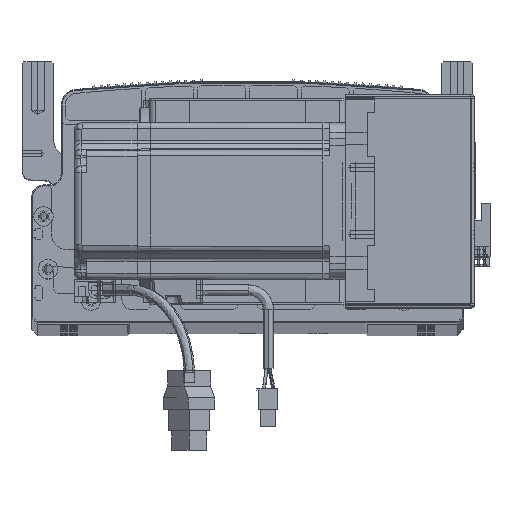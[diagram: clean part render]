
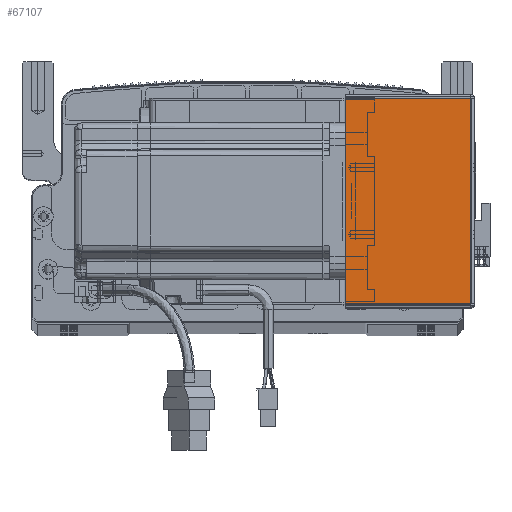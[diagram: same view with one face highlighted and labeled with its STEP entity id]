
A CAD part, top view. The second image highlights one B-rep face of the part: STEP entity #67107.
In plain terms, the highlighted planar face has unit normal (0, 0, 1) as drawn and (0, 0, -1) by its records, which use the part's own axes.
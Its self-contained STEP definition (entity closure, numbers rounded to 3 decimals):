
#2623 = CARTESIAN_POINT ( 'NONE',  ( 0.737, 105.293, -205.5 ) ) ;
#4442 = EDGE_CURVE ( 'NONE', #79353, #72066, #68485, .T. ) ;
#4563 = VECTOR ( 'NONE', #40053, 1000. ) ;
#5557 = EDGE_LOOP ( 'NONE', ( #59477, #54348, #36827, #17968 ) ) ;
#7065 = VECTOR ( 'NONE', #88303, 1000. ) ;
#8232 = VECTOR ( 'NONE', #10029, 1000. ) ;
#10029 = DIRECTION ( 'NONE',  ( 1., 0., 0. ) ) ;
#11229 = CARTESIAN_POINT ( 'NONE',  ( 0., 0.707, -205.5 ) ) ;
#15884 = VERTEX_POINT ( 'NONE', #82902 ) ;
#16853 = AXIS2_PLACEMENT_3D ( 'NONE', #23118, #62361, #77618 ) ;
#17968 = ORIENTED_EDGE ( 'NONE', *, *, #65363, .F. ) ;
#23118 = CARTESIAN_POINT ( 'NONE',  ( 0., 0., -205.5 ) ) ;
#24353 = EDGE_CURVE ( 'NONE', #82210, #15884, #89960, .T. ) ;
#25675 = CARTESIAN_POINT ( 'NONE',  ( 0.737, 0., -205.5 ) ) ;
#36827 = ORIENTED_EDGE ( 'NONE', *, *, #4442, .T. ) ;
#39539 = CARTESIAN_POINT ( 'NONE',  ( 64.5, 0.707, -205.5 ) ) ;
#40053 = DIRECTION ( 'NONE',  ( 0., -1., 0. ) ) ;
#46157 = LINE ( 'NONE', #47936, #8232 ) ;
#47177 = EDGE_CURVE ( 'NONE', #82210, #79353, #46157, .T. ) ;
#47936 = CARTESIAN_POINT ( 'NONE',  ( 0., 105.293, -205.5 ) ) ;
#54348 = ORIENTED_EDGE ( 'NONE', *, *, #47177, .T. ) ;
#57412 = DIRECTION ( 'NONE',  ( 0., -1., 0. ) ) ;
#59477 = ORIENTED_EDGE ( 'NONE', *, *, #24353, .F. ) ;
#62361 = DIRECTION ( 'NONE',  ( 0., 0., 1. ) ) ;
#65363 = EDGE_CURVE ( 'NONE', #15884, #72066, #72923, .T. ) ;
#67107 = ADVANCED_FACE ( 'NONE', ( #89780 ), #99206, .F. ) ;
#68485 = LINE ( 'NONE', #88050, #87989 ) ;
#70846 = CARTESIAN_POINT ( 'NONE',  ( 64.5, 105.293, -205.5 ) ) ;
#72066 = VERTEX_POINT ( 'NONE', #39539 ) ;
#72923 = LINE ( 'NONE', #11229, #7065 ) ;
#77618 = DIRECTION ( 'NONE',  ( 1., 0., 0. ) ) ;
#79353 = VERTEX_POINT ( 'NONE', #70846 ) ;
#82210 = VERTEX_POINT ( 'NONE', #2623 ) ;
#82902 = CARTESIAN_POINT ( 'NONE',  ( 0.737, 0.707, -205.5 ) ) ;
#87989 = VECTOR ( 'NONE', #57412, 1000. ) ;
#88050 = CARTESIAN_POINT ( 'NONE',  ( 64.5, 0., -205.5 ) ) ;
#88303 = DIRECTION ( 'NONE',  ( 1., 0., 0. ) ) ;
#89780 = FACE_OUTER_BOUND ( 'NONE', #5557, .T. ) ;
#89960 = LINE ( 'NONE', #25675, #4563 ) ;
#99206 = PLANE ( 'NONE',  #16853 ) ;
